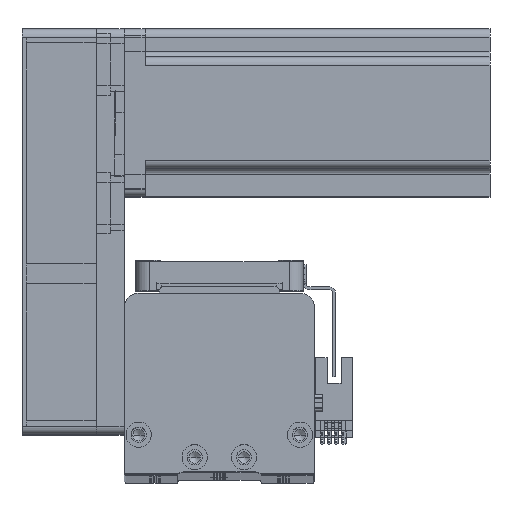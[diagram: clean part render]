
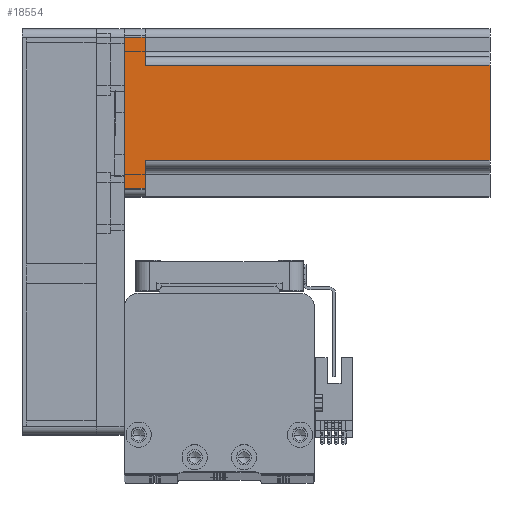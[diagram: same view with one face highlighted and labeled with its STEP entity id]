
A CAD part, top view. The second image highlights one B-rep face of the part: STEP entity #18554.
In plain terms, the highlighted planar face has unit normal (0, 0, 1) as drawn and (0, 1, 0) by its records, which use the part's own axes.
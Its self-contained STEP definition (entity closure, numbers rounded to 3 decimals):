
#209 = VECTOR ( 'NONE', #34030, 1000. ) ;
#1132 = DIRECTION ( 'NONE',  ( -1., 0., 0. ) ) ;
#1245 = VECTOR ( 'NONE', #8426, 1000. ) ;
#1841 = ORIENTED_EDGE ( 'NONE', *, *, #39689, .F. ) ;
#2355 = ORIENTED_EDGE ( 'NONE', *, *, #10922, .T. ) ;
#2954 = CARTESIAN_POINT ( 'NONE',  ( 30., 30., 130.7 ) ) ;
#4596 = LINE ( 'NONE', #42199, #45605 ) ;
#4938 = EDGE_CURVE ( 'NONE', #42457, #42616, #41045, .T. ) ;
#5073 = CARTESIAN_POINT ( 'NONE',  ( 30., 30., 0. ) ) ;
#6336 = ORIENTED_EDGE ( 'NONE', *, *, #48451, .T. ) ;
#7046 = DIRECTION ( 'NONE',  ( 1., 0., 0. ) ) ;
#7524 = CARTESIAN_POINT ( 'NONE',  ( 17., 30., 7.5 ) ) ;
#8426 = DIRECTION ( 'NONE',  ( 0., 0., -1. ) ) ;
#9090 = LINE ( 'NONE', #30282, #23898 ) ;
#9273 = CARTESIAN_POINT ( 'NONE',  ( 27., 30., 130.7 ) ) ;
#9986 = AXIS2_PLACEMENT_3D ( 'NONE', #2954, #31672, #7046 ) ;
#10836 = CARTESIAN_POINT ( 'NONE',  ( -20., 30., 7.5 ) ) ;
#10922 = EDGE_CURVE ( 'NONE', #25989, #22007, #11066, .T. ) ;
#11066 = LINE ( 'NONE', #9273, #209 ) ;
#14355 = VECTOR ( 'NONE', #39528, 1000. ) ;
#18508 = EDGE_CURVE ( 'NONE', #35370, #20038, #34910, .T. ) ;
#18554 = ADVANCED_FACE ( 'NONE', ( #32395 ), #23215, .F. ) ;
#18901 = DIRECTION ( 'NONE',  ( -1., 0., 0. ) ) ;
#19171 = ORIENTED_EDGE ( 'NONE', *, *, #4938, .T. ) ;
#19958 = CARTESIAN_POINT ( 'NONE',  ( -17., 30., 130.7 ) ) ;
#20038 = VERTEX_POINT ( 'NONE', #53162 ) ;
#20832 = CARTESIAN_POINT ( 'NONE',  ( 17., 30., 130.7 ) ) ;
#21788 = DIRECTION ( 'NONE',  ( 0., 0., 1. ) ) ;
#21927 = CARTESIAN_POINT ( 'NONE',  ( 27., 30., 7.5 ) ) ;
#22007 = VERTEX_POINT ( 'NONE', #35190 ) ;
#22189 = VERTEX_POINT ( 'NONE', #19958 ) ;
#23215 = PLANE ( 'NONE',  #9986 ) ;
#23384 = EDGE_CURVE ( 'NONE', #20038, #22189, #4596, .T. ) ;
#23898 = VECTOR ( 'NONE', #50494, 1000. ) ;
#25989 = VERTEX_POINT ( 'NONE', #21927 ) ;
#27102 = CARTESIAN_POINT ( 'NONE',  ( 17., 30., 130.7 ) ) ;
#29275 = ORIENTED_EDGE ( 'NONE', *, *, #18508, .T. ) ;
#30227 = LINE ( 'NONE', #5073, #38529 ) ;
#30282 = CARTESIAN_POINT ( 'NONE',  ( 30., 30., 130.7 ) ) ;
#31672 = DIRECTION ( 'NONE',  ( 0., -1., 0. ) ) ;
#32395 = FACE_OUTER_BOUND ( 'NONE', #39007, .T. ) ;
#34030 = DIRECTION ( 'NONE',  ( 0., 0., -1. ) ) ;
#34910 = LINE ( 'NONE', #10836, #14355 ) ;
#35190 = CARTESIAN_POINT ( 'NONE',  ( 27., 30., 0. ) ) ;
#35370 = VERTEX_POINT ( 'NONE', #51478 ) ;
#36614 = LINE ( 'NONE', #43382, #46171 ) ;
#37023 = LINE ( 'NONE', #37758, #38276 ) ;
#37758 = CARTESIAN_POINT ( 'NONE',  ( -27., 30., 130.7 ) ) ;
#38276 = VECTOR ( 'NONE', #41868, 1000. ) ;
#38529 = VECTOR ( 'NONE', #1132, 1000. ) ;
#39007 = EDGE_LOOP ( 'NONE', ( #29275, #51345, #41981, #19171, #1841, #2355, #39434, #6336 ) ) ;
#39434 = ORIENTED_EDGE ( 'NONE', *, *, #43585, .T. ) ;
#39528 = DIRECTION ( 'NONE',  ( 1., 0., 0. ) ) ;
#39689 = EDGE_CURVE ( 'NONE', #25989, #42616, #36614, .T. ) ;
#41045 = LINE ( 'NONE', #20832, #1245 ) ;
#41868 = DIRECTION ( 'NONE',  ( 0., 0., 1. ) ) ;
#41981 = ORIENTED_EDGE ( 'NONE', *, *, #42823, .F. ) ;
#42199 = CARTESIAN_POINT ( 'NONE',  ( -17., 30., 130.7 ) ) ;
#42457 = VERTEX_POINT ( 'NONE', #27102 ) ;
#42616 = VERTEX_POINT ( 'NONE', #7524 ) ;
#42823 = EDGE_CURVE ( 'NONE', #42457, #22189, #9090, .T. ) ;
#43382 = CARTESIAN_POINT ( 'NONE',  ( 20., 30., 7.5 ) ) ;
#43585 = EDGE_CURVE ( 'NONE', #22007, #46898, #30227, .T. ) ;
#45605 = VECTOR ( 'NONE', #21788, 1000. ) ;
#46171 = VECTOR ( 'NONE', #18901, 1000. ) ;
#46898 = VERTEX_POINT ( 'NONE', #50778 ) ;
#48451 = EDGE_CURVE ( 'NONE', #46898, #35370, #37023, .T. ) ;
#50494 = DIRECTION ( 'NONE',  ( -1., 0., 0. ) ) ;
#50778 = CARTESIAN_POINT ( 'NONE',  ( -27., 30., 0. ) ) ;
#51345 = ORIENTED_EDGE ( 'NONE', *, *, #23384, .T. ) ;
#51478 = CARTESIAN_POINT ( 'NONE',  ( -27., 30., 7.5 ) ) ;
#53162 = CARTESIAN_POINT ( 'NONE',  ( -17., 30., 7.5 ) ) ;
